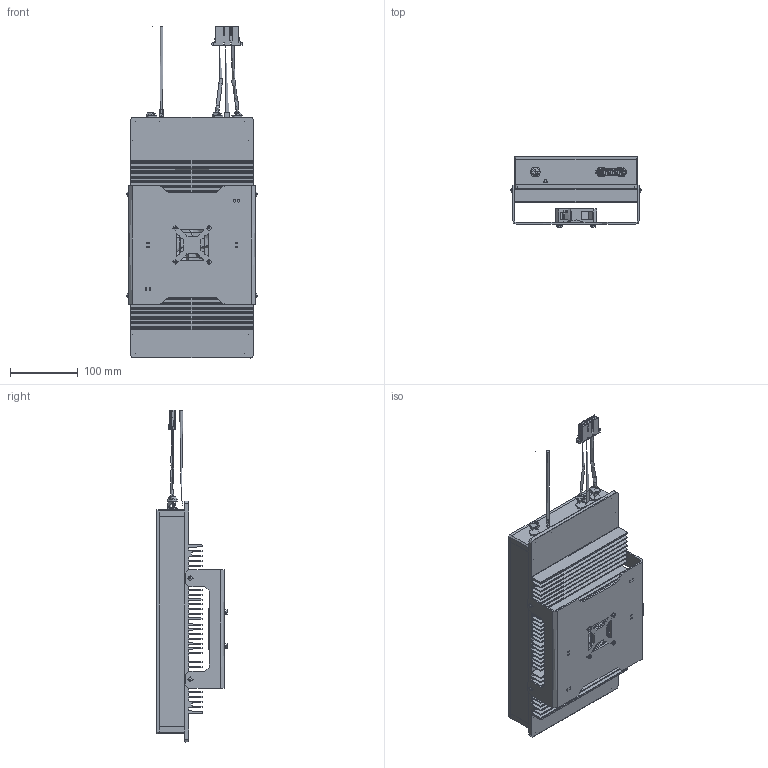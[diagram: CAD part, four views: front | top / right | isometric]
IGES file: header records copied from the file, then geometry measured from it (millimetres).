
Global section: file name: TWC-2500W-A-TXCOIL-FIN-FAN; native system: Autodesk Inventor 2021; preprocessor: unknown; author: eunsol jang; date: 20230821.175832; units: millimetre
Bounding box: 192.04 x 103.73 x 489.35 mm (x, y, z)
Volume: 1366503.8 mm3; surface area: 670396.9 mm2
Topology: 2 solids, 2 shells, 3249 faces, 8797 edges, 5831 vertices
Faces by surface type: bspline 3249
